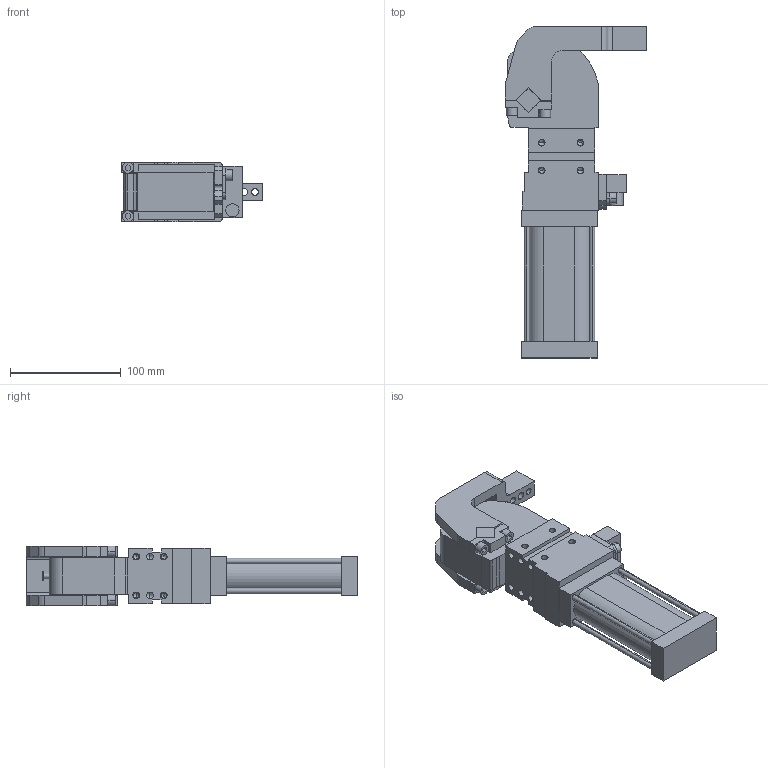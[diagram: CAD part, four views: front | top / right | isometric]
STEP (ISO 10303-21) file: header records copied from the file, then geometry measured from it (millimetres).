
FILE_DESCRIPTION (( 'STEP AP214' ), '1' );
FILE_NAME ('cpl40v3csi1g_57.STEP', '2021-05-25T10:48:45', ( '' ), ( '' ), 'SwSTEP 2.0', 'SolidWorks 2021', '' );
FILE_SCHEMA (( 'AUTOMOTIVE_DESIGN' ));
Length unit declared in the file: millimetre
Products named in the file (5): blocchetto_VEP_0_cpl40; meccanica_cpl40; piastra_blocchetto_cpl40; cpl40v3csi1g_57; leva_v3c_cpl40
Assembly tree (4 placements, depth 2):
  cpl40v3csi1g_57
    meccanica_cpl40
    leva_v3c_cpl40
    blocchetto_VEP_0_cpl40
    piastra_blocchetto_cpl40
Bounding box: 128 x 300 x 54 mm (x, y, z)
Volume: 789972.3 mm3; surface area: 122257.8 mm2
Topology: 5 solids, 5 shells, 446 faces, 1142 edges, 717 vertices
Faces by surface type: plane 248, cylinder 150, cone 48
Entity records: 14753 total; most frequent: DIRECTION 2332, CARTESIAN_POINT 2266, ORIENTED_EDGE 2192, EDGE_CURVE 1096, AXIS2_PLACEMENT_3D 783, LINE 766, VECTOR 766, VERTEX_POINT 717
